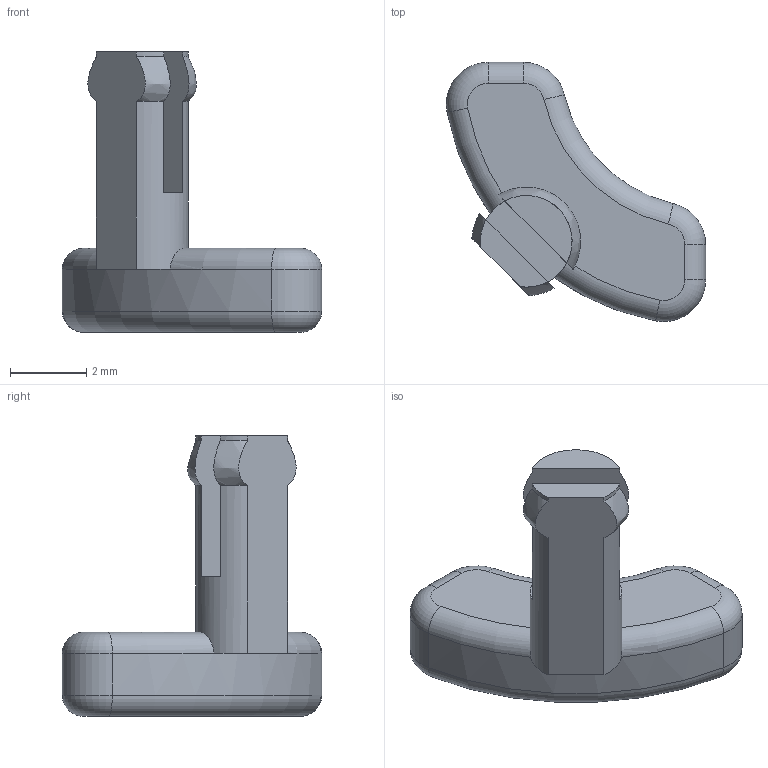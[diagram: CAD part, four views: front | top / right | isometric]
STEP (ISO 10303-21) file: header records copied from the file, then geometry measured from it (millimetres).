
FILE_DESCRIPTION(('Open CASCADE Model'),'2;1');
FILE_NAME('Open CASCADE Shape Model','2026-09-27T04:50:32',('Author'),( 'Open CASCADE'),'Open CASCADE STEP processor 7.8','Open CASCADE 7.8' ,'Unknown');
FILE_SCHEMA(('AUTOMOTIVE_DESIGN { 1 0 10303 214 1 1 1 1 }'));
Length unit declared in the file: millimetre
Products named in the file (1): Open CASCADE STEP translator 7.8 3
Bounding box: 6.79 x 6.79 x 7.35 mm (x, y, z)
Volume: 70.1 mm3; surface area: 142.7 mm2
Topology: 1 solids, 1 shells, 41 faces, 99 edges, 60 vertices
Faces by surface type: cylinder 14, torus 13, plane 11, bspline 3
Entity records: 3598 total; most frequent: CARTESIAN_POINT 1641, DIRECTION 369, ORIENTED_EDGE 198, PCURVE 198, DEFINITIONAL_REPRESENTATION 198, LINE 185, VECTOR 185, EDGE_CURVE 99
